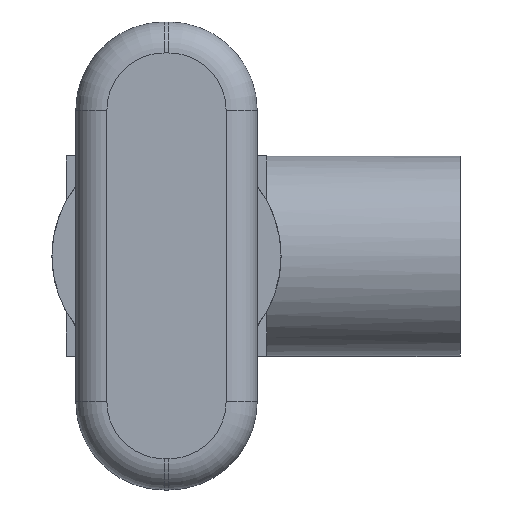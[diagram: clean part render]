
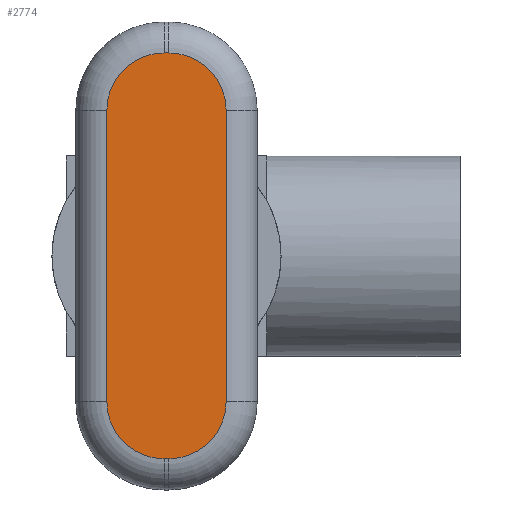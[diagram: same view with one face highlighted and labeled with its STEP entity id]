
A CAD part, top view. The second image highlights one B-rep face of the part: STEP entity #2774.
In plain terms, the highlighted planar face has unit normal (0, 0, 1).
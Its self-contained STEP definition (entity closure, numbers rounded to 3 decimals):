
#989 = CYLINDRICAL_SURFACE('',#990,0.65);
#990 = AXIS2_PLACEMENT_3D('',#991,#992,#993);
#991 = CARTESIAN_POINT('',(-1.25,3.475,-0.23));
#992 = DIRECTION('',(0.,1.,0.));
#993 = DIRECTION('',(-0.707,0.,0.707));
#2155 = TOROIDAL_SURFACE('',#2156,1.2,0.65);
#2156 = AXIS2_PLACEMENT_3D('',#2157,#2158,#2159);
#2157 = CARTESIAN_POINT('',(-0.05,1.95,-0.23));
#2158 = DIRECTION('',(0.,0.,-1.));
#2159 = DIRECTION('',(-1.,0.,0.));
#2194 = VERTEX_POINT('',#2195);
#2195 = CARTESIAN_POINT('',(-1.25,8.05,0.42));
#2210 = TOROIDAL_SURFACE('',#2211,1.2,0.65);
#2211 = AXIS2_PLACEMENT_3D('',#2212,#2213,#2214);
#2212 = CARTESIAN_POINT('',(-0.05,8.05,-0.23));
#2213 = DIRECTION('',(0.,0.,-1.));
#2214 = DIRECTION('',(-1.,0.,0.));
#2224 = VERTEX_POINT('',#2225);
#2225 = CARTESIAN_POINT('',(-1.25,1.95,0.42));
#2247 = EDGE_CURVE('',#2224,#2194,#2248,.T.);
#2248 = SURFACE_CURVE('',#2249,(#2253,#2260),.PCURVE_S1.);
#2249 = LINE('',#2250,#2251);
#2250 = CARTESIAN_POINT('',(-1.25,3.475,0.42));
#2251 = VECTOR('',#2252,1.);
#2252 = DIRECTION('',(0.,1.,0.));
#2253 = PCURVE('',#989,#2254);
#2254 = DEFINITIONAL_REPRESENTATION('',(#2255),#2259);
#2255 = LINE('',#2256,#2257);
#2256 = CARTESIAN_POINT('',(7.069,0.));
#2257 = VECTOR('',#2258,1.);
#2258 = DIRECTION('',(0.,1.));
#2259 = ( GEOMETRIC_REPRESENTATION_CONTEXT(2) 
PARAMETRIC_REPRESENTATION_CONTEXT() REPRESENTATION_CONTEXT('2D SPACE',''
  ) );
#2260 = PCURVE('',#2261,#2266);
#2261 = PLANE('',#2262);
#2262 = AXIS2_PLACEMENT_3D('',#2263,#2264,#2265);
#2263 = CARTESIAN_POINT('',(0.,5.,0.42));
#2264 = DIRECTION('',(0.,0.,-1.));
#2265 = DIRECTION('',(-1.,0.,0.));
#2266 = DEFINITIONAL_REPRESENTATION('',(#2267),#2271);
#2267 = LINE('',#2268,#2269);
#2268 = CARTESIAN_POINT('',(1.25,-1.525));
#2269 = VECTOR('',#2270,1.);
#2270 = DIRECTION('',(0.,1.));
#2271 = ( GEOMETRIC_REPRESENTATION_CONTEXT(2) 
PARAMETRIC_REPRESENTATION_CONTEXT() REPRESENTATION_CONTEXT('2D SPACE',''
  ) );
#2545 = CYLINDRICAL_SURFACE('',#2546,0.65);
#2546 = AXIS2_PLACEMENT_3D('',#2547,#2548,#2549);
#2547 = CARTESIAN_POINT('',(1.25,6.525,-0.23));
#2548 = DIRECTION('',(0.,-1.,-0.));
#2549 = DIRECTION('',(0.707,0.,0.707));
#2601 = TOROIDAL_SURFACE('',#2602,1.2,0.65);
#2602 = AXIS2_PLACEMENT_3D('',#2603,#2604,#2605);
#2603 = CARTESIAN_POINT('',(0.05,1.95,-0.23));
#2604 = DIRECTION('',(0.,0.,-1.));
#2605 = DIRECTION('',(-1.,0.,0.));
#2653 = CYLINDRICAL_SURFACE('',#2654,0.65);
#2654 = AXIS2_PLACEMENT_3D('',#2655,#2656,#2657);
#2655 = CARTESIAN_POINT('',(0.025,0.75,-0.23));
#2656 = DIRECTION('',(-1.,0.,0.));
#2657 = DIRECTION('',(0.,-0.707,0.707
    ));
#2674 = VERTEX_POINT('',#2675);
#2675 = CARTESIAN_POINT('',(-0.05,0.75,0.42));
#2697 = EDGE_CURVE('',#2674,#2224,#2698,.T.);
#2698 = SURFACE_CURVE('',#2699,(#2704,#2711),.PCURVE_S1.);
#2699 = CIRCLE('',#2700,1.2);
#2700 = AXIS2_PLACEMENT_3D('',#2701,#2702,#2703);
#2701 = CARTESIAN_POINT('',(-0.05,1.95,0.42));
#2702 = DIRECTION('',(0.,0.,-1.));
#2703 = DIRECTION('',(-0.707,-0.707,
    0.));
#2704 = PCURVE('',#2155,#2705);
#2705 = DEFINITIONAL_REPRESENTATION('',(#2706),#2710);
#2706 = LINE('',#2707,#2708);
#2707 = CARTESIAN_POINT('',(-0.785,4.712));
#2708 = VECTOR('',#2709,1.);
#2709 = DIRECTION('',(1.,0.));
#2710 = ( GEOMETRIC_REPRESENTATION_CONTEXT(2) 
PARAMETRIC_REPRESENTATION_CONTEXT() REPRESENTATION_CONTEXT('2D SPACE',''
  ) );
#2711 = PCURVE('',#2261,#2712);
#2712 = DEFINITIONAL_REPRESENTATION('',(#2713),#2717);
#2713 = CIRCLE('',#2714,1.2);
#2714 = AXIS2_PLACEMENT_2D('',#2715,#2716);
#2715 = CARTESIAN_POINT('',(0.05,-3.05));
#2716 = DIRECTION('',(0.707,-0.707));
#2717 = ( GEOMETRIC_REPRESENTATION_CONTEXT(2) 
PARAMETRIC_REPRESENTATION_CONTEXT() REPRESENTATION_CONTEXT('2D SPACE',''
  ) );
#2723 = VERTEX_POINT('',#2724);
#2724 = CARTESIAN_POINT('',(-0.05,9.25,0.42));
#2739 = CYLINDRICAL_SURFACE('',#2740,0.65);
#2740 = AXIS2_PLACEMENT_3D('',#2741,#2742,#2743);
#2741 = CARTESIAN_POINT('',(-0.025,9.25,-0.23));
#2742 = DIRECTION('',(1.,0.,0.));
#2743 = DIRECTION('',(0.,0.707,0.707)
  );
#2753 = EDGE_CURVE('',#2194,#2723,#2754,.T.);
#2754 = SURFACE_CURVE('',#2755,(#2760,#2767),.PCURVE_S1.);
#2755 = CIRCLE('',#2756,1.2);
#2756 = AXIS2_PLACEMENT_3D('',#2757,#2758,#2759);
#2757 = CARTESIAN_POINT('',(-0.05,8.05,0.42));
#2758 = DIRECTION('',(0.,0.,-1.));
#2759 = DIRECTION('',(-0.707,0.707,0.
    ));
#2760 = PCURVE('',#2210,#2761);
#2761 = DEFINITIONAL_REPRESENTATION('',(#2762),#2766);
#2762 = LINE('',#2763,#2764);
#2763 = CARTESIAN_POINT('',(-5.498,4.712));
#2764 = VECTOR('',#2765,1.);
#2765 = DIRECTION('',(1.,0.));
#2766 = ( GEOMETRIC_REPRESENTATION_CONTEXT(2) 
PARAMETRIC_REPRESENTATION_CONTEXT() REPRESENTATION_CONTEXT('2D SPACE',''
  ) );
#2767 = PCURVE('',#2261,#2768);
#2768 = DEFINITIONAL_REPRESENTATION('',(#2769),#2773);
#2769 = CIRCLE('',#2770,1.2);
#2770 = AXIS2_PLACEMENT_2D('',#2771,#2772);
#2771 = CARTESIAN_POINT('',(0.05,3.05));
#2772 = DIRECTION('',(0.707,0.707));
#2773 = ( GEOMETRIC_REPRESENTATION_CONTEXT(2) 
PARAMETRIC_REPRESENTATION_CONTEXT() REPRESENTATION_CONTEXT('2D SPACE',''
  ) );
#2774 = ADVANCED_FACE('',(#2775),#2261,.F.);
#2775 = FACE_BOUND('',#2776,.T.);
#2776 = EDGE_LOOP('',(#2777,#2802,#2831,#2852,#2853,#2854,#2855,#2878));
#2777 = ORIENTED_EDGE('',*,*,#2778,.F.);
#2778 = EDGE_CURVE('',#2779,#2781,#2783,.T.);
#2779 = VERTEX_POINT('',#2780);
#2780 = CARTESIAN_POINT('',(1.25,8.05,0.42));
#2781 = VERTEX_POINT('',#2782);
#2782 = CARTESIAN_POINT('',(1.25,1.95,0.42));
#2783 = SURFACE_CURVE('',#2784,(#2788,#2795),.PCURVE_S1.);
#2784 = LINE('',#2785,#2786);
#2785 = CARTESIAN_POINT('',(1.25,6.525,0.42));
#2786 = VECTOR('',#2787,1.);
#2787 = DIRECTION('',(0.,-1.,-0.));
#2788 = PCURVE('',#2261,#2789);
#2789 = DEFINITIONAL_REPRESENTATION('',(#2790),#2794);
#2790 = LINE('',#2791,#2792);
#2791 = CARTESIAN_POINT('',(-1.25,1.525));
#2792 = VECTOR('',#2793,1.);
#2793 = DIRECTION('',(-0.,-1.));
#2794 = ( GEOMETRIC_REPRESENTATION_CONTEXT(2) 
PARAMETRIC_REPRESENTATION_CONTEXT() REPRESENTATION_CONTEXT('2D SPACE',''
  ) );
#2795 = PCURVE('',#2545,#2796);
#2796 = DEFINITIONAL_REPRESENTATION('',(#2797),#2801);
#2797 = LINE('',#2798,#2799);
#2798 = CARTESIAN_POINT('',(7.069,0.));
#2799 = VECTOR('',#2800,1.);
#2800 = DIRECTION('',(0.,1.));
#2801 = ( GEOMETRIC_REPRESENTATION_CONTEXT(2) 
PARAMETRIC_REPRESENTATION_CONTEXT() REPRESENTATION_CONTEXT('2D SPACE',''
  ) );
#2802 = ORIENTED_EDGE('',*,*,#2803,.F.);
#2803 = EDGE_CURVE('',#2804,#2779,#2806,.T.);
#2804 = VERTEX_POINT('',#2805);
#2805 = CARTESIAN_POINT('',(0.05,9.25,0.42));
#2806 = SURFACE_CURVE('',#2807,(#2812,#2819),.PCURVE_S1.);
#2807 = CIRCLE('',#2808,1.2);
#2808 = AXIS2_PLACEMENT_3D('',#2809,#2810,#2811);
#2809 = CARTESIAN_POINT('',(0.05,8.05,0.42));
#2810 = DIRECTION('',(0.,0.,-1.));
#2811 = DIRECTION('',(0.707,0.707,0.)
  );
#2812 = PCURVE('',#2261,#2813);
#2813 = DEFINITIONAL_REPRESENTATION('',(#2814),#2818);
#2814 = CIRCLE('',#2815,1.2);
#2815 = AXIS2_PLACEMENT_2D('',#2816,#2817);
#2816 = CARTESIAN_POINT('',(-0.05,3.05));
#2817 = DIRECTION('',(-0.707,0.707));
#2818 = ( GEOMETRIC_REPRESENTATION_CONTEXT(2) 
PARAMETRIC_REPRESENTATION_CONTEXT() REPRESENTATION_CONTEXT('2D SPACE',''
  ) );
#2819 = PCURVE('',#2820,#2825);
#2820 = TOROIDAL_SURFACE('',#2821,1.2,0.65);
#2821 = AXIS2_PLACEMENT_3D('',#2822,#2823,#2824);
#2822 = CARTESIAN_POINT('',(0.05,8.05,-0.23));
#2823 = DIRECTION('',(0.,0.,-1.));
#2824 = DIRECTION('',(-1.,0.,0.));
#2825 = DEFINITIONAL_REPRESENTATION('',(#2826),#2830);
#2826 = LINE('',#2827,#2828);
#2827 = CARTESIAN_POINT('',(-3.927,4.712));
#2828 = VECTOR('',#2829,1.);
#2829 = DIRECTION('',(1.,0.));
#2830 = ( GEOMETRIC_REPRESENTATION_CONTEXT(2) 
PARAMETRIC_REPRESENTATION_CONTEXT() REPRESENTATION_CONTEXT('2D SPACE',''
  ) );
#2831 = ORIENTED_EDGE('',*,*,#2832,.F.);
#2832 = EDGE_CURVE('',#2723,#2804,#2833,.T.);
#2833 = SURFACE_CURVE('',#2834,(#2838,#2845),.PCURVE_S1.);
#2834 = LINE('',#2835,#2836);
#2835 = CARTESIAN_POINT('',(-0.025,9.25,0.42));
#2836 = VECTOR('',#2837,1.);
#2837 = DIRECTION('',(1.,0.,0.));
#2838 = PCURVE('',#2261,#2839);
#2839 = DEFINITIONAL_REPRESENTATION('',(#2840),#2844);
#2840 = LINE('',#2841,#2842);
#2841 = CARTESIAN_POINT('',(0.025,4.25));
#2842 = VECTOR('',#2843,1.);
#2843 = DIRECTION('',(-1.,0.));
#2844 = ( GEOMETRIC_REPRESENTATION_CONTEXT(2) 
PARAMETRIC_REPRESENTATION_CONTEXT() REPRESENTATION_CONTEXT('2D SPACE',''
  ) );
#2845 = PCURVE('',#2739,#2846);
#2846 = DEFINITIONAL_REPRESENTATION('',(#2847),#2851);
#2847 = LINE('',#2848,#2849);
#2848 = CARTESIAN_POINT('',(7.069,0.));
#2849 = VECTOR('',#2850,1.);
#2850 = DIRECTION('',(0.,1.));
#2851 = ( GEOMETRIC_REPRESENTATION_CONTEXT(2) 
PARAMETRIC_REPRESENTATION_CONTEXT() REPRESENTATION_CONTEXT('2D SPACE',''
  ) );
#2852 = ORIENTED_EDGE('',*,*,#2753,.F.);
#2853 = ORIENTED_EDGE('',*,*,#2247,.F.);
#2854 = ORIENTED_EDGE('',*,*,#2697,.F.);
#2855 = ORIENTED_EDGE('',*,*,#2856,.F.);
#2856 = EDGE_CURVE('',#2857,#2674,#2859,.T.);
#2857 = VERTEX_POINT('',#2858);
#2858 = CARTESIAN_POINT('',(0.05,0.75,0.42));
#2859 = SURFACE_CURVE('',#2860,(#2864,#2871),.PCURVE_S1.);
#2860 = LINE('',#2861,#2862);
#2861 = CARTESIAN_POINT('',(0.025,0.75,0.42));
#2862 = VECTOR('',#2863,1.);
#2863 = DIRECTION('',(-1.,0.,0.));
#2864 = PCURVE('',#2261,#2865);
#2865 = DEFINITIONAL_REPRESENTATION('',(#2866),#2870);
#2866 = LINE('',#2867,#2868);
#2867 = CARTESIAN_POINT('',(-0.025,-4.25));
#2868 = VECTOR('',#2869,1.);
#2869 = DIRECTION('',(1.,0.));
#2870 = ( GEOMETRIC_REPRESENTATION_CONTEXT(2) 
PARAMETRIC_REPRESENTATION_CONTEXT() REPRESENTATION_CONTEXT('2D SPACE',''
  ) );
#2871 = PCURVE('',#2653,#2872);
#2872 = DEFINITIONAL_REPRESENTATION('',(#2873),#2877);
#2873 = LINE('',#2874,#2875);
#2874 = CARTESIAN_POINT('',(7.069,0.));
#2875 = VECTOR('',#2876,1.);
#2876 = DIRECTION('',(0.,1.));
#2877 = ( GEOMETRIC_REPRESENTATION_CONTEXT(2) 
PARAMETRIC_REPRESENTATION_CONTEXT() REPRESENTATION_CONTEXT('2D SPACE',''
  ) );
#2878 = ORIENTED_EDGE('',*,*,#2879,.F.);
#2879 = EDGE_CURVE('',#2781,#2857,#2880,.T.);
#2880 = SURFACE_CURVE('',#2881,(#2886,#2893),.PCURVE_S1.);
#2881 = CIRCLE('',#2882,1.2);
#2882 = AXIS2_PLACEMENT_3D('',#2883,#2884,#2885);
#2883 = CARTESIAN_POINT('',(0.05,1.95,0.42));
#2884 = DIRECTION('',(0.,0.,-1.));
#2885 = DIRECTION('',(0.707,-0.707,0.)
  );
#2886 = PCURVE('',#2261,#2887);
#2887 = DEFINITIONAL_REPRESENTATION('',(#2888),#2892);
#2888 = CIRCLE('',#2889,1.2);
#2889 = AXIS2_PLACEMENT_2D('',#2890,#2891);
#2890 = CARTESIAN_POINT('',(-0.05,-3.05));
#2891 = DIRECTION('',(-0.707,-0.707));
#2892 = ( GEOMETRIC_REPRESENTATION_CONTEXT(2) 
PARAMETRIC_REPRESENTATION_CONTEXT() REPRESENTATION_CONTEXT('2D SPACE',''
  ) );
#2893 = PCURVE('',#2601,#2894);
#2894 = DEFINITIONAL_REPRESENTATION('',(#2895),#2899);
#2895 = LINE('',#2896,#2897);
#2896 = CARTESIAN_POINT('',(-2.356,4.712));
#2897 = VECTOR('',#2898,1.);
#2898 = DIRECTION('',(1.,0.));
#2899 = ( GEOMETRIC_REPRESENTATION_CONTEXT(2) 
PARAMETRIC_REPRESENTATION_CONTEXT() REPRESENTATION_CONTEXT('2D SPACE',''
  ) );
